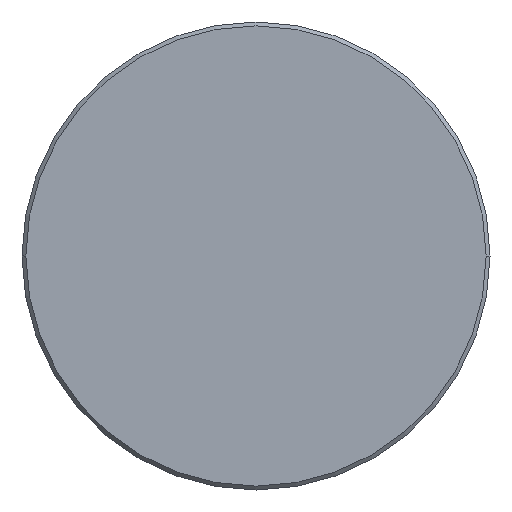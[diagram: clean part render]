
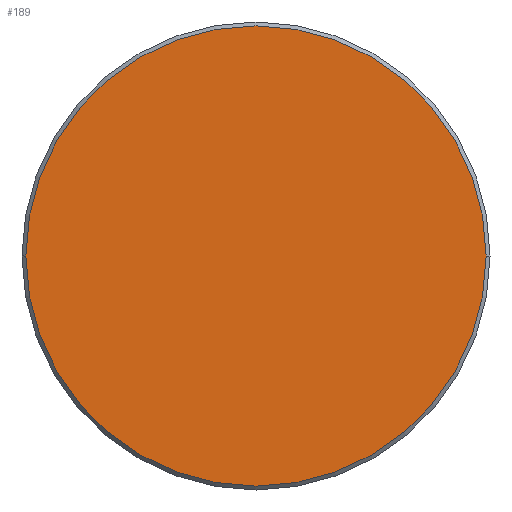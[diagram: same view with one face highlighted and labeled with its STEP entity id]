
A CAD part, left-side view. The second image highlights one B-rep face of the part: STEP entity #189.
In plain terms, the highlighted planar face has unit normal (-1, 0, 0).
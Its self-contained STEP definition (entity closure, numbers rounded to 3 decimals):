
#169=AXIS2_PLACEMENT_3D('Plane Axis2P3D',#166,#167,#168) ;
#173=AXIS2_PLACEMENT_3D('Circle Axis2P3D',#171,#172,$) ;
#182=AXIS2_PLACEMENT_3D('Circle Axis2P3D',#180,#181,$) ;
#166=CARTESIAN_POINT('Axis2P3D Location',(-10.,0.,0.)) ;
#171=CARTESIAN_POINT('Axis2P3D Location',(-10.,9.09,0.)) ;
#175=CARTESIAN_POINT('Vertex',(-10.,38.59,0.)) ;
#177=CARTESIAN_POINT('Vertex',(-10.,-20.41,0.)) ;
#180=CARTESIAN_POINT('Axis2P3D Location',(-10.,9.09,0.)) ;
#167=DIRECTION('Axis2P3D Direction',(-1.,-0.,0.)) ;
#168=DIRECTION('Axis2P3D XDirection',(0.,-1.,-0.)) ;
#172=DIRECTION('Axis2P3D Direction',(-1.,-0.,0.)) ;
#181=DIRECTION('Axis2P3D Direction',(-1.,-0.,0.)) ;
#186=ORIENTED_EDGE('',*,*,#179,.T.) ;
#187=ORIENTED_EDGE('',*,*,#184,.T.) ;
#189=ADVANCED_FACE('\X2\51E04F554F53\X0\.2',(#188),#170,.T.) ;
#174=CIRCLE('generated circle',#173,29.5) ;
#183=CIRCLE('generated circle',#182,29.5) ;
#179=EDGE_CURVE('',#176,#178,#174,.T.) ;
#184=EDGE_CURVE('',#178,#176,#183,.T.) ;
#185=EDGE_LOOP('',(#186,#187)) ;
#188=FACE_OUTER_BOUND('',#185,.T.) ;
#170=PLANE('',#169) ;
#176=VERTEX_POINT('',#175) ;
#178=VERTEX_POINT('',#177) ;
